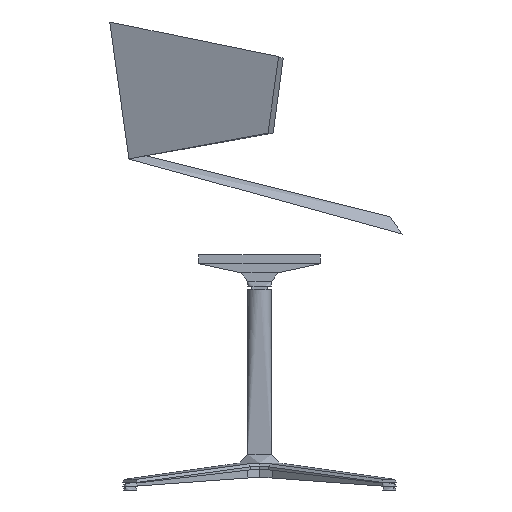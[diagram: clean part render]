
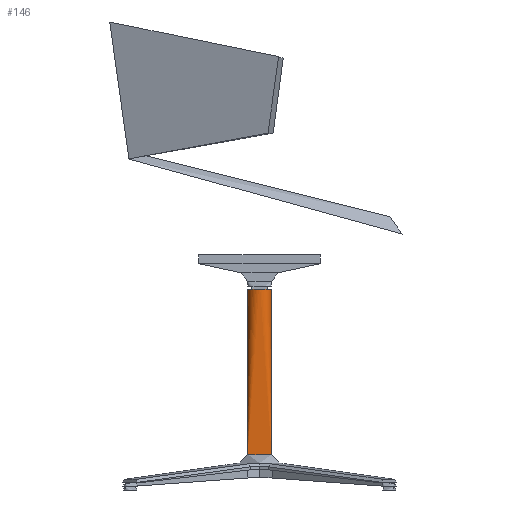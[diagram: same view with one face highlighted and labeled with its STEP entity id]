
A CAD part, left-side view. The second image highlights one B-rep face of the part: STEP entity #146.
In plain terms, the highlighted free-form (B-spline) face has degree [2, 1] with [5, 2] control points.
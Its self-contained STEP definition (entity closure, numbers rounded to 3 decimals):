
#146=ADVANCED_FACE('',(#270),#1811,.T.);
#270=FACE_OUTER_BOUND('',#394,.T.);
#394=EDGE_LOOP('',(#899,#900,#901,#902));
#899=ORIENTED_EDGE('',*,*,#1228,.T.);
#900=ORIENTED_EDGE('',*,*,#1212,.T.);
#901=ORIENTED_EDGE('',*,*,#1023,.T.);
#902=ORIENTED_EDGE('',*,*,#1227,.F.);
#1023=EDGE_CURVE('',#1586,#1700,#1279,.T.);
#1212=EDGE_CURVE('',#1699,#1586,#1504,.T.);
#1227=EDGE_CURVE('',#1709,#1700,#1517,.T.);
#1228=EDGE_CURVE('',#1709,#1699,#1518,.T.);
#1279=B_SPLINE_CURVE_WITH_KNOTS('',3,(#4032,#4033,#4034,#4035,#4036,#4037,
#4038,#4039,#4040,#4041,#4042,#4043,#4044,#4045,#4046,#4047,#4048,#4049,
#4050),.UNSPECIFIED.,.F.,.F.,(4,1,2,2,2,2,2,2,2,4),(-169.646,-164.344,
-159.043,-148.44,-137.837,-127.234,
-116.631,-106.029,-95.426,-84.823),
 .UNSPECIFIED.);
#1504=(
BOUNDED_CURVE()
B_SPLINE_CURVE(1,(#5649,#5650),.UNSPECIFIED.,.F.,.F.)
B_SPLINE_CURVE_WITH_KNOTS((2,2),(0.,280.),.UNSPECIFIED.)
CURVE()
GEOMETRIC_REPRESENTATION_ITEM()
RATIONAL_B_SPLINE_CURVE((1.,1.))
REPRESENTATION_ITEM('')
);
#1517=(
BOUNDED_CURVE()
B_SPLINE_CURVE(1,(#5766,#5767),.UNSPECIFIED.,.F.,.F.)
B_SPLINE_CURVE_WITH_KNOTS((2,2),(0.,280.),.UNSPECIFIED.)
CURVE()
GEOMETRIC_REPRESENTATION_ITEM()
RATIONAL_B_SPLINE_CURVE((1.,1.))
REPRESENTATION_ITEM('')
);
#1518=(
BOUNDED_CURVE()
B_SPLINE_CURVE(2,(#5768,#5769,#5770,#5771,#5772),.UNSPECIFIED.,.F.,.F.)
B_SPLINE_CURVE_WITH_KNOTS((3,2,3),(-62.832,-31.416,
0.),.UNSPECIFIED.)
CURVE()
GEOMETRIC_REPRESENTATION_ITEM()
RATIONAL_B_SPLINE_CURVE((1.,0.707,1.,0.707,1.))
REPRESENTATION_ITEM('')
);
#1586=VERTEX_POINT('',#3893);
#1699=VERTEX_POINT('',#4006);
#1700=VERTEX_POINT('',#4007);
#1709=VERTEX_POINT('',#4016);
#1811=(
BOUNDED_SURFACE()
B_SPLINE_SURFACE(2,1,((#3882,#3883),(#3884,#3885),(#3886,#3887),(#3888,
#3889),(#3890,#3891)),.UNSPECIFIED.,.F.,.F.,.F.)
B_SPLINE_SURFACE_WITH_KNOTS((3,2,3),(2,2),(-62.832,-31.416,
0.),(0.,280.),.UNSPECIFIED.)
GEOMETRIC_REPRESENTATION_ITEM()
RATIONAL_B_SPLINE_SURFACE(((1.,1.),(0.707,0.707),
(1.,1.),(0.707,0.707),(1.,1.)))
REPRESENTATION_ITEM('')
SURFACE()
);
#3882=CARTESIAN_POINT('',(0.,-20.,340.));
#3883=CARTESIAN_POINT('',(0.,-20.,60.));
#3884=CARTESIAN_POINT('',(-20.,-20.,340.));
#3885=CARTESIAN_POINT('',(-20.,-20.,60.));
#3886=CARTESIAN_POINT('',(-20.,0.,340.));
#3887=CARTESIAN_POINT('',(-20.,0.,60.));
#3888=CARTESIAN_POINT('',(-20.,20.,340.));
#3889=CARTESIAN_POINT('',(-20.,20.,60.));
#3890=CARTESIAN_POINT('',(0.,20.,340.));
#3891=CARTESIAN_POINT('',(0.,20.,60.));
#3893=CARTESIAN_POINT('',(0.,20.,60.));
#4006=CARTESIAN_POINT('',(0.,20.,340.));
#4007=CARTESIAN_POINT('',(0.,-20.001,60.));
#4016=CARTESIAN_POINT('',(0.,-20.,340.));
#4032=CARTESIAN_POINT('',(0.,20.,60.));
#4033=CARTESIAN_POINT('',(-1.309,20.,60.));
#4034=CARTESIAN_POINT('',(-3.927,19.742,60.));
#4035=CARTESIAN_POINT('',(-6.444,18.978,60.));
#4036=CARTESIAN_POINT('',(-10.073,17.477,60.));
#4037=CARTESIAN_POINT('',(-12.292,15.994,60.));
#4038=CARTESIAN_POINT('',(-15.994,12.292,60.));
#4039=CARTESIAN_POINT('',(-17.477,10.073,60.));
#4040=CARTESIAN_POINT('',(-19.48,5.235,60.));
#4041=CARTESIAN_POINT('',(-20.001,2.619,60.));
#4042=CARTESIAN_POINT('',(-20.001,-2.619,60.));
#4043=CARTESIAN_POINT('',(-19.48,-5.235,60.));
#4044=CARTESIAN_POINT('',(-17.477,-10.073,60.));
#4045=CARTESIAN_POINT('',(-15.994,-12.292,60.));
#4046=CARTESIAN_POINT('',(-12.292,-15.994,60.));
#4047=CARTESIAN_POINT('',(-10.073,-17.477,60.));
#4048=CARTESIAN_POINT('',(-5.235,-19.48,60.));
#4049=CARTESIAN_POINT('',(-2.619,-20.001,60.));
#4050=CARTESIAN_POINT('',(0.,-20.001,60.));
#5649=CARTESIAN_POINT('',(0.,20.,340.));
#5650=CARTESIAN_POINT('',(0.,20.,60.));
#5766=CARTESIAN_POINT('',(0.,-20.,340.));
#5767=CARTESIAN_POINT('',(0.,-20.,60.));
#5768=CARTESIAN_POINT('',(0.,-20.,340.));
#5769=CARTESIAN_POINT('',(-20.,-20.,340.));
#5770=CARTESIAN_POINT('',(-20.,0.,340.));
#5771=CARTESIAN_POINT('',(-20.,20.,340.));
#5772=CARTESIAN_POINT('',(0.,20.,340.));
